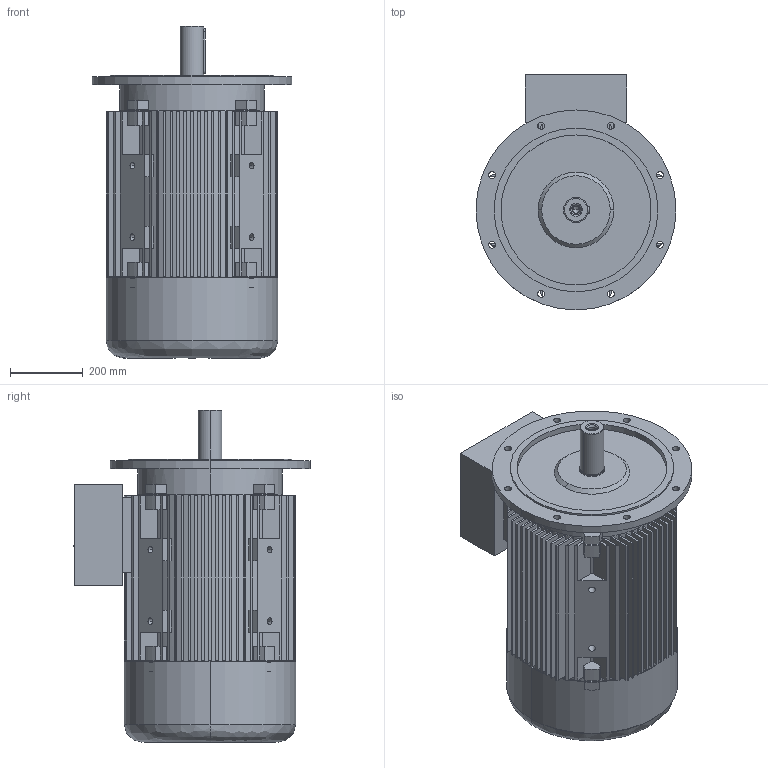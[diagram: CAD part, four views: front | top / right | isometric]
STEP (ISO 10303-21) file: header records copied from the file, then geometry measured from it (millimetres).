
FILE_DESCRIPTION (( 'STEP AP203' ), '1' );
FILE_NAME ('20.18375_B 7AZ 250M - 4, -6 B5 STANDK.STEP', '2018-04-03T09:27:47', ( '' ), ( '' ), 'SwSTEP 2.0', 'SolidWorks 2017', '' );
FILE_SCHEMA (( 'CONFIG_CONTROL_DESIGN' ));
Length unit declared in the file: millimetre
Products named in the file (1): 20.18375_B  7AZ 250M - 4, -6 B5 STANDK
Bounding box: 550 x 649 x 913 mm (x, y, z)
Volume: 45971319.3 mm3; surface area: 6256453.2 mm2
Topology: 14 solids, 14 shells, 801 faces, 2121 edges, 1393 vertices
Faces by surface type: plane 628, cylinder 126, cone 34, bspline 13
Entity records: 25453 total; most frequent: CARTESIAN_POINT 5191, ORIENTED_EDGE 4206, DIRECTION 4143, EDGE_CURVE 2103, VECTOR 1573, LINE 1573, VERTEX_POINT 1393, AXIS2_PLACEMENT_3D 1285
